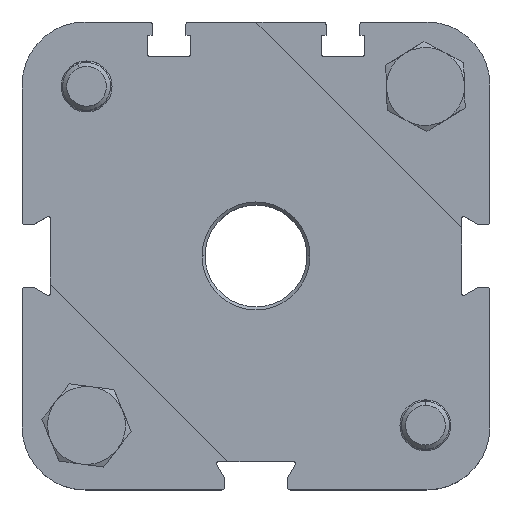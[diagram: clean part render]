
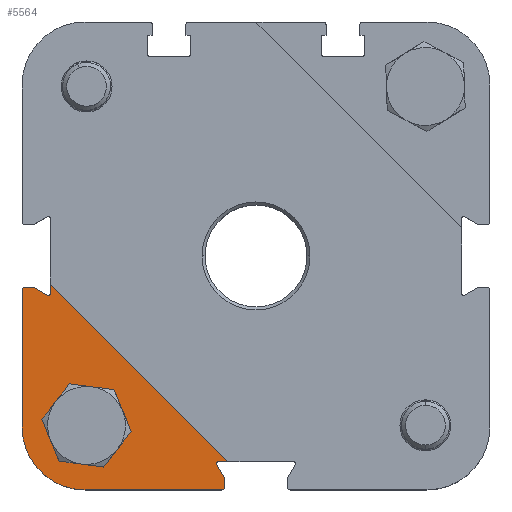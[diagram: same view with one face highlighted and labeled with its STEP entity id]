
A CAD part, top view. The second image highlights one B-rep face of the part: STEP entity #5564.
In plain terms, the highlighted planar face has unit normal (0, 0, 1).
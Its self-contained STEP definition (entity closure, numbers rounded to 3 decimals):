
#6 = VECTOR ( 'NONE', #10618, 1000. ) ;
#14 = CARTESIAN_POINT ( 'NONE',  ( -37.105, -5.2, 6.5 ) ) ;
#263 = VERTEX_POINT ( 'NONE', #8535 ) ;
#274 = DIRECTION ( 'NONE',  ( 1., 0., 0. ) ) ;
#294 = VERTEX_POINT ( 'NONE', #338 ) ;
#338 = CARTESIAN_POINT ( 'NONE',  ( -5.7, -39., 6.5 ) ) ;
#384 = EDGE_CURVE ( 'NONE', #478, #10061, #9153, .T. ) ;
#478 = VERTEX_POINT ( 'NONE', #9974 ) ;
#521 = ORIENTED_EDGE ( 'NONE', *, *, #5603, .F. ) ;
#590 = VERTEX_POINT ( 'NONE', #1181 ) ;
#692 = CARTESIAN_POINT ( 'NONE',  ( -32.5, -28.25, 6.5 ) ) ;
#705 = DIRECTION ( 'NONE',  ( 0., 0., 1. ) ) ;
#965 = VERTEX_POINT ( 'NONE', #2574 ) ;
#1132 = VERTEX_POINT ( 'NONE', #1325 ) ;
#1171 = AXIS2_PLACEMENT_3D ( 'NONE', #10700, #4785, #8179 ) ;
#1181 = CARTESIAN_POINT ( 'NONE',  ( -6.3, -34.3, 6.5 ) ) ;
#1325 = CARTESIAN_POINT ( 'NONE',  ( -39., -5.7, 6.5 ) ) ;
#1338 = AXIS2_PLACEMENT_3D ( 'NONE', #7236, #8068, #7194 ) ;
#1454 = DIRECTION ( 'NONE',  ( 0., 0., 1. ) ) ;
#1472 = DIRECTION ( 'NONE',  ( 1., 0., 0. ) ) ;
#1514 = EDGE_CURVE ( 'NONE', #3959, #8605, #8584, .T. ) ;
#1586 = CARTESIAN_POINT ( 'NONE',  ( -6.3, -34.6, 6.5 ) ) ;
#1636 = VERTEX_POINT ( 'NONE', #3720 ) ;
#1842 = CARTESIAN_POINT ( 'NONE',  ( -34.75, -6.56, 6.5 ) ) ;
#1864 = VECTOR ( 'NONE', #4842, 1000. ) ;
#1989 = DIRECTION ( 'NONE',  ( -0.707, 0.707, 0. ) ) ;
#1994 = AXIS2_PLACEMENT_3D ( 'NONE', #6469, #9010, #1472 ) ;
#2058 = VECTOR ( 'NONE', #5844, 1000. ) ;
#2194 = LINE ( 'NONE', #1842, #5338 ) ;
#2222 = VERTEX_POINT ( 'NONE', #3823 ) ;
#2298 = LINE ( 'NONE', #8059, #6 ) ;
#2334 = CARTESIAN_POINT ( 'NONE',  ( -39., -39., 6.5 ) ) ;
#2347 = AXIS2_PLACEMENT_3D ( 'NONE', #2334, #1454, #3064 ) ;
#2441 = CIRCLE ( 'NONE', #9138, 0.5 ) ;
#2519 = DIRECTION ( 'NONE',  ( -0.5, 0.866, 0. ) ) ;
#2574 = CARTESIAN_POINT ( 'NONE',  ( -4.697, -34.3, 6.5 ) ) ;
#2649 = DIRECTION ( 'NONE',  ( 0., 1., 0. ) ) ;
#2735 = LINE ( 'NONE', #14, #2058 ) ;
#2780 = DIRECTION ( 'NONE',  ( -0.866, 0.5, 0. ) ) ;
#2799 = LINE ( 'NONE', #8156, #1864 ) ;
#2883 = AXIS2_PLACEMENT_3D ( 'NONE', #3713, #3742, #274 ) ;
#2960 = FACE_OUTER_BOUND ( 'NONE', #7773, .T. ) ;
#2990 = CIRCLE ( 'NONE', #2883, 0.3 ) ;
#3064 = DIRECTION ( 'NONE',  ( 1., 0., 0. ) ) ;
#3269 = VERTEX_POINT ( 'NONE', #4667 ) ;
#3621 = CARTESIAN_POINT ( 'NONE',  ( -28.25, -28.25, 6.5 ) ) ;
#3640 = EDGE_CURVE ( 'NONE', #263, #9672, #6665, .T. ) ;
#3713 = CARTESIAN_POINT ( 'NONE',  ( -6.3, -34.6, 6.5 ) ) ;
#3720 = CARTESIAN_POINT ( 'NONE',  ( -38.5, -5.2, 6.5 ) ) ;
#3726 = EDGE_CURVE ( 'NONE', #8605, #7572, #5343, .T. ) ;
#3742 = DIRECTION ( 'NONE',  ( 0., 0., -1. ) ) ;
#3823 = CARTESIAN_POINT ( 'NONE',  ( -6.6, -34.6, 6.5 ) ) ;
#3846 = ORIENTED_EDGE ( 'NONE', *, *, #3850, .T. ) ;
#3850 = EDGE_CURVE ( 'NONE', #3928, #3269, #8089, .T. ) ;
#3928 = VERTEX_POINT ( 'NONE', #6865 ) ;
#3959 = VERTEX_POINT ( 'NONE', #9494 ) ;
#4154 = VECTOR ( 'NONE', #2649, 1000. ) ;
#4353 = DIRECTION ( 'NONE',  ( 1., 0., 0. ) ) ;
#4381 = ORIENTED_EDGE ( 'NONE', *, *, #1514, .T. ) ;
#4392 = AXIS2_PLACEMENT_3D ( 'NONE', #1586, #4904, #8190 ) ;
#4468 = EDGE_CURVE ( 'NONE', #2222, #590, #5323, .T. ) ;
#4584 = CARTESIAN_POINT ( 'NONE',  ( -39., 0.003, 6.5 ) ) ;
#4625 = EDGE_CURVE ( 'NONE', #3269, #294, #7554, .T. ) ;
#4667 = CARTESIAN_POINT ( 'NONE',  ( -28.5, -39., 6.5 ) ) ;
#4785 = DIRECTION ( 'NONE',  ( 0., 0., -1. ) ) ;
#4842 = DIRECTION ( 'NONE',  ( 1., 0., 0. ) ) ;
#4848 = EDGE_CURVE ( 'NONE', #1132, #3928, #2298, .T. ) ;
#4904 = DIRECTION ( 'NONE',  ( 0., 0., -1. ) ) ;
#4991 = DIRECTION ( 'NONE',  ( 0., -1., 0. ) ) ;
#5060 = VECTOR ( 'NONE', #9451, 1000. ) ;
#5086 = VECTOR ( 'NONE', #2519, 1000. ) ;
#5161 = EDGE_CURVE ( 'NONE', #590, #965, #2799, .T. ) ;
#5211 = ORIENTED_EDGE ( 'NONE', *, *, #4848, .T. ) ;
#5252 = CARTESIAN_POINT ( 'NONE',  ( 0.003, -39., 6.5 ) ) ;
#5323 = CIRCLE ( 'NONE', #4392, 0.3 ) ;
#5333 = CIRCLE ( 'NONE', #10486, 4.25 ) ;
#5338 = VECTOR ( 'NONE', #2780, 1000. ) ;
#5343 = LINE ( 'NONE', #5834, #5086 ) ;
#5427 = ORIENTED_EDGE ( 'NONE', *, *, #9596, .T. ) ;
#5497 = EDGE_CURVE ( 'NONE', #3959, #294, #2441, .T. ) ;
#5546 = ORIENTED_EDGE ( 'NONE', *, *, #3640, .T. ) ;
#5564 = ADVANCED_FACE ( 'NONE', ( #10719, #2960 ), #6343, .T. ) ;
#5603 = EDGE_CURVE ( 'NONE', #1132, #1636, #10441, .T. ) ;
#5834 = CARTESIAN_POINT ( 'NONE',  ( -5.2, -37.105, 6.5 ) ) ;
#5844 = DIRECTION ( 'NONE',  ( -1., 0., 0. ) ) ;
#5958 = CARTESIAN_POINT ( 'NONE',  ( -5.2, -39., 6.5 ) ) ;
#6343 = PLANE ( 'NONE',  #2347 ) ;
#6469 = CARTESIAN_POINT ( 'NONE',  ( -34.6, -6.3, 6.5 ) ) ;
#6493 = LINE ( 'NONE', #4584, #10866 ) ;
#6517 = CARTESIAN_POINT ( 'NONE',  ( -6.56, -34.75, 6.5 ) ) ;
#6521 = CARTESIAN_POINT ( 'NONE',  ( -28.5, -28.5, 6.5 ) ) ;
#6588 = DIRECTION ( 'NONE',  ( 1., 0., 0. ) ) ;
#6665 = CIRCLE ( 'NONE', #1994, 0.3 ) ;
#6718 = ORIENTED_EDGE ( 'NONE', *, *, #4625, .T. ) ;
#6865 = CARTESIAN_POINT ( 'NONE',  ( -39., -28.5, 6.5 ) ) ;
#6936 = EDGE_CURVE ( 'NONE', #7572, #2222, #2990, .T. ) ;
#6938 = VERTEX_POINT ( 'NONE', #7940 ) ;
#6974 = DIRECTION ( 'NONE',  ( 0., 0., -1. ) ) ;
#6975 = ORIENTED_EDGE ( 'NONE', *, *, #8229, .T. ) ;
#7194 = DIRECTION ( 'NONE',  ( 1., 0., 0. ) ) ;
#7236 = CARTESIAN_POINT ( 'NONE',  ( -28.25, -28.25, 6.5 ) ) ;
#7274 = EDGE_CURVE ( 'NONE', #10061, #478, #5333, .T. ) ;
#7325 = DIRECTION ( 'NONE',  ( 1., 0., 0. ) ) ;
#7387 = CARTESIAN_POINT ( 'NONE',  ( -5.7, -38.5, 6.5 ) ) ;
#7554 = LINE ( 'NONE', #5252, #5060 ) ;
#7572 = VERTEX_POINT ( 'NONE', #6517 ) ;
#7773 = EDGE_LOOP ( 'NONE', ( #3846, #6718, #8600, #4381, #8448, #10090, #9303, #8395, #6975, #8523, #5546, #8667, #5427, #521, #5211 ) ) ;
#7940 = CARTESIAN_POINT ( 'NONE',  ( -37.105, -5.2, 6.5 ) ) ;
#8036 = EDGE_CURVE ( 'NONE', #9672, #6938, #2194, .T. ) ;
#8059 = CARTESIAN_POINT ( 'NONE',  ( -39., -39., 6.5 ) ) ;
#8068 = DIRECTION ( 'NONE',  ( 0., 0., -1. ) ) ;
#8089 = CIRCLE ( 'NONE', #9374, 10.5 ) ;
#8156 = CARTESIAN_POINT ( 'NONE',  ( -6.3, -34.3, 6.5 ) ) ;
#8179 = DIRECTION ( 'NONE',  ( 1., 0., 0. ) ) ;
#8190 = DIRECTION ( 'NONE',  ( 1., 0., 0. ) ) ;
#8195 = CARTESIAN_POINT ( 'NONE',  ( -5.2, -37.105, 6.5 ) ) ;
#8229 = EDGE_CURVE ( 'NONE', #965, #10629, #6493, .T. ) ;
#8395 = ORIENTED_EDGE ( 'NONE', *, *, #5161, .T. ) ;
#8448 = ORIENTED_EDGE ( 'NONE', *, *, #3726, .T. ) ;
#8523 = ORIENTED_EDGE ( 'NONE', *, *, #8806, .T. ) ;
#8535 = CARTESIAN_POINT ( 'NONE',  ( -34.3, -6.3, 6.5 ) ) ;
#8584 = LINE ( 'NONE', #5958, #4154 ) ;
#8600 = ORIENTED_EDGE ( 'NONE', *, *, #5497, .F. ) ;
#8605 = VERTEX_POINT ( 'NONE', #8195 ) ;
#8667 = ORIENTED_EDGE ( 'NONE', *, *, #8036, .T. ) ;
#8806 = EDGE_CURVE ( 'NONE', #10629, #263, #9954, .T. ) ;
#9010 = DIRECTION ( 'NONE',  ( 0., 0., -1. ) ) ;
#9095 = ORIENTED_EDGE ( 'NONE', *, *, #7274, .T. ) ;
#9138 = AXIS2_PLACEMENT_3D ( 'NONE', #7387, #10713, #7325 ) ;
#9153 = CIRCLE ( 'NONE', #1338, 4.25 ) ;
#9210 = CARTESIAN_POINT ( 'NONE',  ( -34.3, 6.3, 6.5 ) ) ;
#9303 = ORIENTED_EDGE ( 'NONE', *, *, #4468, .T. ) ;
#9317 = EDGE_LOOP ( 'NONE', ( #10427, #9095 ) ) ;
#9374 = AXIS2_PLACEMENT_3D ( 'NONE', #6521, #705, #6588 ) ;
#9451 = DIRECTION ( 'NONE',  ( 1., 0., 0. ) ) ;
#9494 = CARTESIAN_POINT ( 'NONE',  ( -5.2, -38.5, 6.5 ) ) ;
#9596 = EDGE_CURVE ( 'NONE', #6938, #1636, #2735, .T. ) ;
#9650 = CARTESIAN_POINT ( 'NONE',  ( -34.3, -4.697, 6.5 ) ) ;
#9672 = VERTEX_POINT ( 'NONE', #10182 ) ;
#9954 = LINE ( 'NONE', #9210, #10888 ) ;
#9974 = CARTESIAN_POINT ( 'NONE',  ( -24., -28.25, 6.5 ) ) ;
#10061 = VERTEX_POINT ( 'NONE', #692 ) ;
#10090 = ORIENTED_EDGE ( 'NONE', *, *, #6936, .T. ) ;
#10182 = CARTESIAN_POINT ( 'NONE',  ( -34.75, -6.56, 6.5 ) ) ;
#10427 = ORIENTED_EDGE ( 'NONE', *, *, #384, .T. ) ;
#10441 = CIRCLE ( 'NONE', #1171, 0.5 ) ;
#10486 = AXIS2_PLACEMENT_3D ( 'NONE', #3621, #6974, #4353 ) ;
#10618 = DIRECTION ( 'NONE',  ( 0., -1., 0. ) ) ;
#10629 = VERTEX_POINT ( 'NONE', #9650 ) ;
#10700 = CARTESIAN_POINT ( 'NONE',  ( -38.5, -5.7, 6.5 ) ) ;
#10713 = DIRECTION ( 'NONE',  ( 0., 0., -1. ) ) ;
#10719 = FACE_BOUND ( 'NONE', #9317, .T. ) ;
#10866 = VECTOR ( 'NONE', #1989, 1000. ) ;
#10888 = VECTOR ( 'NONE', #4991, 1000. ) ;
